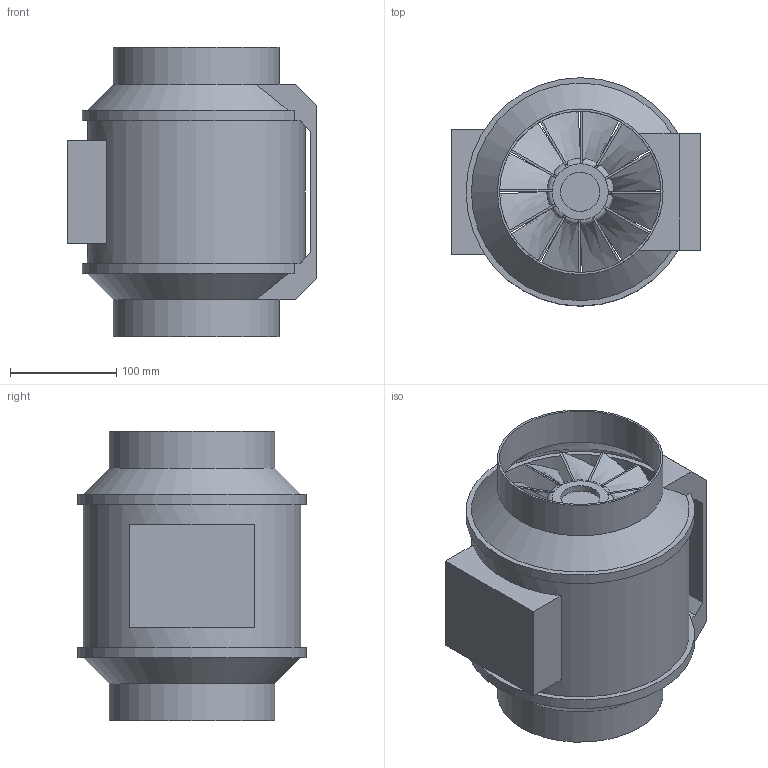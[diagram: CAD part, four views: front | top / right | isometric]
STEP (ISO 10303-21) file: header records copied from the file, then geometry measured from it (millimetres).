
FILE_DESCRIPTION(/* description */ (''),/* implementation_level */ '2;1');
FILE_NAME(/* name */ 'Z:\Output\MV_160-06054-003.stp',/* time_stamp */ '2022-07-25T13:49:08+02:00',/* author */ ('engineering1'),/* organization */ (''),/* preprocessor_version */ 'ST-DEVELOPER v17.2',/* originating_system */ 'Autodesk Inventor 2019',/* authorisation */ '');
FILE_SCHEMA (('AUTOMOTIVE_DESIGN { 1 0 10303 214 3 1 1 }'));
Length unit declared in the file: millimetre
Products named in the file (1): MV-1USER
Bounding box: 234 x 215 x 273 mm (x, y, z)
Volume: 2691366.6 mm3; surface area: 599269.5 mm2
Topology: 3 solids, 3 shells, 327 faces, 791 edges, 517 vertices
Faces by surface type: plane 237, bspline 48, cylinder 23, torus 13, cone 6
Full cylindrical faces by diameter (mm): 6 x4, 36.857 x1, 50.857 x1, 62.857 x1, 116 x1, 152 x2, 156 x2, 201 x1, 205 x1, 211 x2, 215 x2
Entity records: 10783 total; most frequent: CARTESIAN_POINT 2931, ORIENTED_EDGE 1582, DIRECTION 1431, EDGE_CURVE 791, VERTEX_POINT 517, LINE 509, VECTOR 509, AXIS2_PLACEMENT_3D 461
